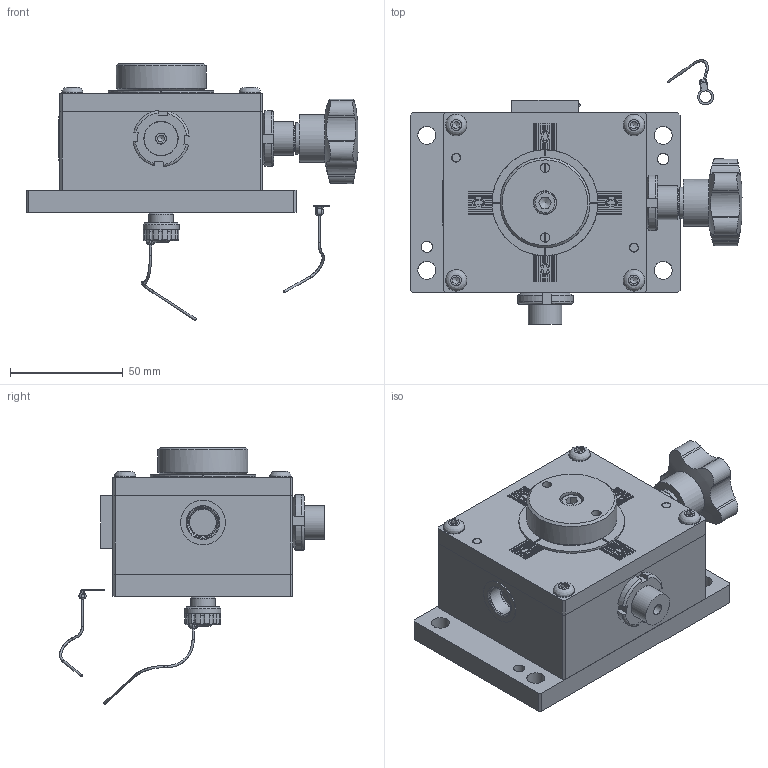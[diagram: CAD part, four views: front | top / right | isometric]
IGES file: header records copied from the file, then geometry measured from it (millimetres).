
Global section: file name: 146.00-DX-Y; native system: Autodesk Inventor 2019; preprocessor: unknown; author: AP; date: 20200220.145921; units: millimetre
Bounding box: 147.51 x 117.72 x 114.1 mm (x, y, z)
Volume: 394138.9 mm3; surface area: 134255.5 mm2
Topology: 44 solids, 44 shells, 1062 faces, 2750 edges, 1873 vertices
Faces by surface type: bspline 1062
